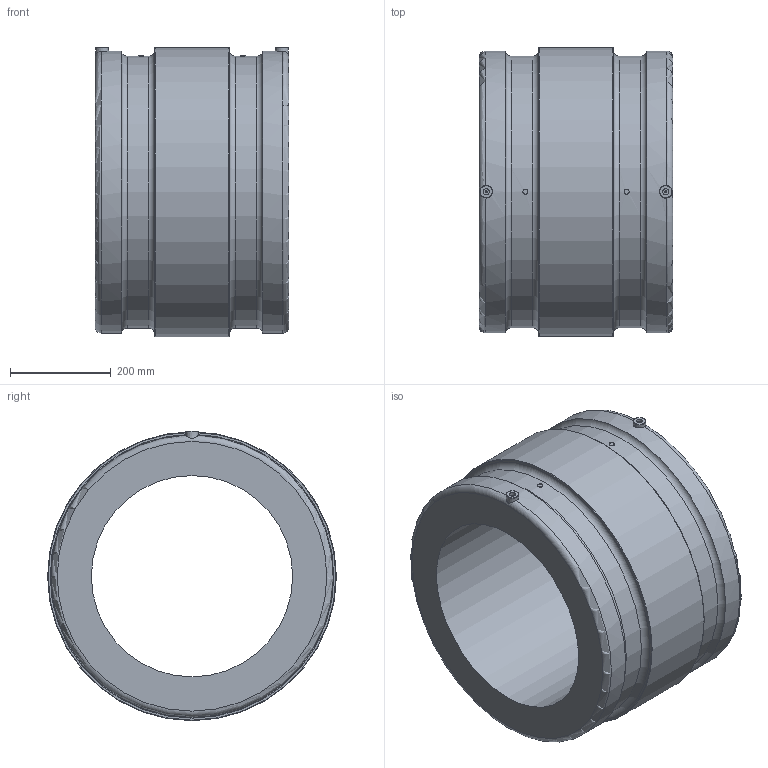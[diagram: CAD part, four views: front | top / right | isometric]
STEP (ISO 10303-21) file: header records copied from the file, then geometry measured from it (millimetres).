
FILE_DESCRIPTION(/* description */ ('Unknown'),/* implementation_level */ '2;1');
FILE_NAME(/* name */ 'MP400H',/* time_stamp */ '2021-05-27T12:58:03+02:00',/* author */ ('Unknown'),/* organization */ ('Unknown'),/* preprocessor_version */ 'ST-DEVELOPER v16.7',/* originating_system */ 'Solid Edge',/* authorisation */ 'Unknown');
FILE_SCHEMA (('AUTOMOTIVE_DESIGN {1 0 10303 214 3 1 1}'));
Length unit declared in the file: millimetre
Products named in the file (1): MP400H
Bounding box: 385 x 574 x 575 mm (x, y, z)
Volume: 46095108.9 mm3; surface area: 1443635.1 mm2
Topology: 1 solids, 1 shells, 36 faces, 75 edges, 47 vertices
Faces by surface type: cylinder 12, plane 12, torus 10, cone 2
Full cylindrical faces by diameter (mm): 4 x2, 10 x2, 12 x2, 400 x1, 540 x2, 560 x2, 574 x1
Entity records: 824 total; most frequent: CARTESIAN_POINT 183, DIRECTION 138, ORIENTED_EDGE 76, EDGE_LOOP 70, FACE_BOUND 70, AXIS2_PLACEMENT_3D 69, EDGE_CURVE 38, VERTEX_POINT 36
